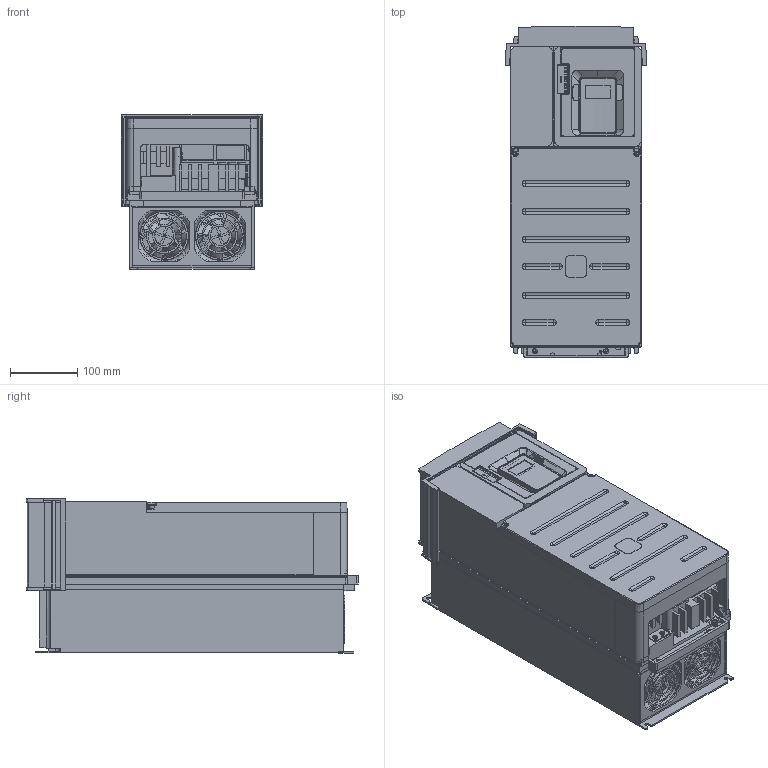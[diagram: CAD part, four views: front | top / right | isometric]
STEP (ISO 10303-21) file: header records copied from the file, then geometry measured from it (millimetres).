
FILE_DESCRIPTION(('STEP AP242'),'1');
FILE_NAME('atv610d18n4.stp','2020-09-02T04:52:11',('TraceParts'),('TraceParts S.A.'),'Spatial InterOp 3D',' ',' ');
FILE_SCHEMA(('AP242_MANAGED_MODEL_BASED_3D_ENGINEERING_MIM_LF {1 0 10303 442 1 1 4}'));
Length unit declared in the file: millimetre
Products named in the file (1): atv610d18n4_1
Bounding box: 211.01 x 494.8 x 229.9 mm (x, y, z)
Volume: 3037766.7 mm3; surface area: 1870040.9 mm2
Topology: 24 solids, 24 shells, 3460 faces, 9710 edges, 6314 vertices
Faces by surface type: plane 2130, cylinder 964, torus 184, bspline 104, sphere 46, cone 32
Entity records: 147231 total; most frequent: CARTESIAN_POINT 28579, ORIENTED_EDGE 19392, DIRECTION 18477, EDGE_CURVE 9696, LINE 6467, VECTOR 6467, VERTEX_POINT 6314, AXIS2_PLACEMENT_3D 6005
